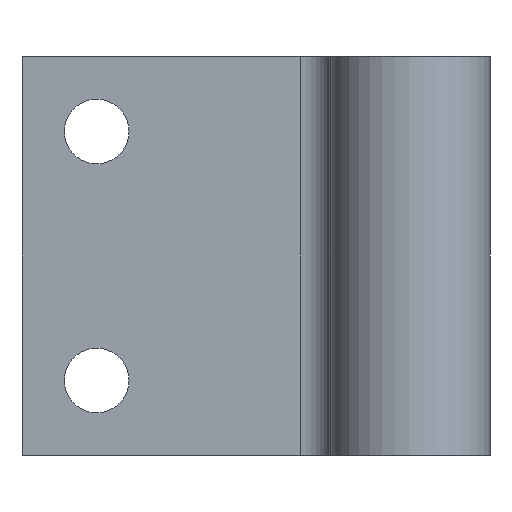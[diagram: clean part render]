
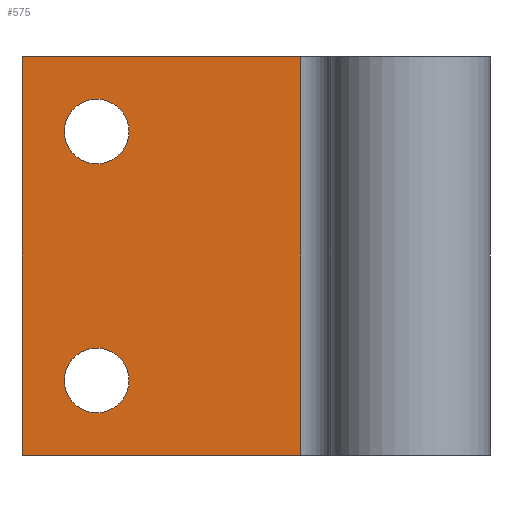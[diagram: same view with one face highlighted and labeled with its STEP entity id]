
A CAD part, left-side view. The second image highlights one B-rep face of the part: STEP entity #575.
In plain terms, the highlighted planar face has unit normal (-1, 0, 0).
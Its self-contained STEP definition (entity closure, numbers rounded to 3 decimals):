
#36 = DIRECTION ( 'NONE',  ( 1., 0., 0. ) ) ;
#58 = VERTEX_POINT ( 'NONE', #344 ) ;
#102 = VERTEX_POINT ( 'NONE', #776 ) ;
#104 = DIRECTION ( 'NONE',  ( 0., 0., -1. ) ) ;
#108 = AXIS2_PLACEMENT_3D ( 'NONE', #646, #360, #274 ) ;
#131 = CARTESIAN_POINT ( 'NONE',  ( 5., 39., -40. ) ) ;
#135 = DIRECTION ( 'NONE',  ( 0., -1., 0. ) ) ;
#144 = EDGE_LOOP ( 'NONE', ( #803 ) ) ;
#212 = CARTESIAN_POINT ( 'NONE',  ( 5., 0., 0. ) ) ;
#216 = VERTEX_POINT ( 'NONE', #670 ) ;
#231 = VECTOR ( 'NONE', #104, 1000. ) ;
#246 = CARTESIAN_POINT ( 'NONE',  ( 5., 0., -40. ) ) ;
#274 = DIRECTION ( 'NONE',  ( 0., 0., -1. ) ) ;
#277 = FACE_OUTER_BOUND ( 'NONE', #707, .T. ) ;
#283 = EDGE_LOOP ( 'NONE', ( #348 ) ) ;
#285 = DIRECTION ( 'NONE',  ( -1., 0., 0. ) ) ;
#344 = CARTESIAN_POINT ( 'NONE',  ( 5., 31.5, -35.75 ) ) ;
#348 = ORIENTED_EDGE ( 'NONE', *, *, #700, .T. ) ;
#354 = LINE ( 'NONE', #718, #928 ) ;
#360 = DIRECTION ( 'NONE',  ( 1., 0., 0. ) ) ;
#451 = EDGE_CURVE ( 'NONE', #769, #102, #895, .T. ) ;
#465 = EDGE_CURVE ( 'NONE', #216, #769, #760, .T. ) ;
#491 = VECTOR ( 'NONE', #499, 1000. ) ;
#499 = DIRECTION ( 'NONE',  ( 0., -1., 0. ) ) ;
#512 = CIRCLE ( 'NONE', #108, 3.25 ) ;
#517 = ORIENTED_EDGE ( 'NONE', *, *, #465, .T. ) ;
#528 = EDGE_CURVE ( 'NONE', #708, #708, #512, .T. ) ;
#531 = DIRECTION ( 'NONE',  ( 0., -1., 0. ) ) ;
#550 = CARTESIAN_POINT ( 'NONE',  ( 5., 39., -40. ) ) ;
#555 = PLANE ( 'NONE',  #711 ) ;
#562 = FACE_BOUND ( 'NONE', #283, .T. ) ;
#575 = ADVANCED_FACE ( 'NONE', ( #277, #562, #772 ), #555, .T. ) ;
#593 = VERTEX_POINT ( 'NONE', #858 ) ;
#596 = EDGE_CURVE ( 'NONE', #216, #593, #852, .T. ) ;
#603 = CARTESIAN_POINT ( 'NONE',  ( 5., 31.5, -32.5 ) ) ;
#627 = EDGE_CURVE ( 'NONE', #102, #593, #354, .T. ) ;
#639 = VECTOR ( 'NONE', #531, 1000. ) ;
#640 = DIRECTION ( 'NONE',  ( 0., 0., 1. ) ) ;
#646 = CARTESIAN_POINT ( 'NONE',  ( 5., 31.5, -7.5 ) ) ;
#648 = ORIENTED_EDGE ( 'NONE', *, *, #451, .T. ) ;
#670 = CARTESIAN_POINT ( 'NONE',  ( 5., 39., 0. ) ) ;
#700 = EDGE_CURVE ( 'NONE', #58, #58, #737, .T. ) ;
#707 = EDGE_LOOP ( 'NONE', ( #648, #797, #837, #517 ) ) ;
#708 = VERTEX_POINT ( 'NONE', #838 ) ;
#711 = AXIS2_PLACEMENT_3D ( 'NONE', #861, #285, #135 ) ;
#718 = CARTESIAN_POINT ( 'NONE',  ( 5., 11., -40. ) ) ;
#737 = CIRCLE ( 'NONE', #880, 3.25 ) ;
#760 = LINE ( 'NONE', #550, #231 ) ;
#769 = VERTEX_POINT ( 'NONE', #131 ) ;
#772 = FACE_BOUND ( 'NONE', #144, .T. ) ;
#776 = CARTESIAN_POINT ( 'NONE',  ( 5., 11., -40. ) ) ;
#797 = ORIENTED_EDGE ( 'NONE', *, *, #627, .T. ) ;
#803 = ORIENTED_EDGE ( 'NONE', *, *, #528, .T. ) ;
#837 = ORIENTED_EDGE ( 'NONE', *, *, #596, .F. ) ;
#838 = CARTESIAN_POINT ( 'NONE',  ( 5., 31.5, -10.75 ) ) ;
#841 = DIRECTION ( 'NONE',  ( 0., 0., -1. ) ) ;
#852 = LINE ( 'NONE', #212, #491 ) ;
#858 = CARTESIAN_POINT ( 'NONE',  ( 5., 11., 0. ) ) ;
#861 = CARTESIAN_POINT ( 'NONE',  ( 5., 39., -40. ) ) ;
#880 = AXIS2_PLACEMENT_3D ( 'NONE', #603, #36, #841 ) ;
#895 = LINE ( 'NONE', #246, #639 ) ;
#928 = VECTOR ( 'NONE', #640, 1000. ) ;
